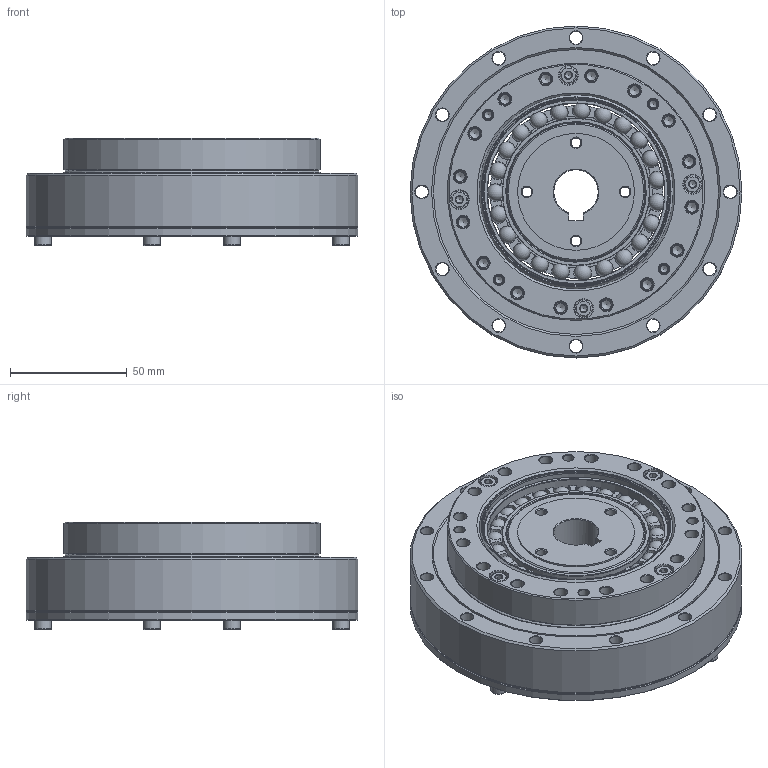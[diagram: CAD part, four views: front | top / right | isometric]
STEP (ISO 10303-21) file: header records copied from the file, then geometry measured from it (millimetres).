
FILE_DESCRIPTION(/* description */ (''),/* implementation_level */ '2;1');
FILE_NAME(/* name */ 'FHG-32-XX-U-I_孔径19.stp',/* time_stamp */ '2025-02-21T16:46:04+08:00',/* author */ (''),/* organization */ (''),/* preprocessor_version */ 'ST-DEVELOPER v16.7',/* originating_system */ 'SIEMENS PLM Software NX 12.0',/* authorisation */ '');
FILE_SCHEMA (('AUTOMOTIVE_DESIGN { 1 0 10303 214 3 1 1 1 }'));
Length unit declared in the file: millimetre
Products named in the file (15): EB598012-32KCH-46258; EB598012-32KCH-04259; EB598012-32KCH-02260; EB598012-32KCH-01261; TC-110x122x6262; GB-T70.1-2000,M4x16263; GB-T70.1-2000,M4x10264; 发生器FSG-32-XXDL直径19_stp265; O型密封圈92.6-90-0.75266; O型密封圈123.8-120-1.1267; 刚轮FHG-32268; 柔轮FHG-32269; EB598012-32KCH_stp270; 交叉轴承LHT-32271; FHG-32-XX-U-I_孔径19__stp
Assembly tree (20 placements, depth 3):
  FHG-32-XX-U-I_孔径19__stp
    柔轮FHG-32269
    刚轮FHG-32268
    交叉轴承LHT-32271
      TC-110x122x6262
    O型密封圈123.8-120-1.1267
    O型密封圈92.6-90-0.75266
    EB598012-32KCH_stp270
      EB598012-32KCH-01261
      EB598012-32KCH-02260
      EB598012-32KCH-04259
      EB598012-32KCH-46258
    发生器FSG-32-XXDL直径19_stp265
    GB-T70.1-2000,M4x10264  x4
    GB-T70.1-2000,M4x16263  x4
Bounding box: 142 x 142 x 46 mm (x, y, z)
Volume: 324978.1 mm3; surface area: 176105.3 mm2
Topology: 42 solids, 42 shells, 820 faces, 1900 edges, 1151 vertices
Faces by surface type: cone 287, plane 216, cylinder 207, torus 85, sphere 23, bspline 2
Full cylindrical faces by diameter (mm): 2.5 x2, 3.3 x16, 3.838 x8, 4.2 x20, 4.5 x16, 5.5 x40, 7 x8, 8 x4, 32 x1, 50 x1, 56.7 x1, 58.928 x2, 62 x1, 63.096 x2, 65 x1, 69 x1, 73.8 x1, 75.83 x2, 79.756 x2, 80.703 x1, 82.886 x1, 83.27 x1, 86 x1, 88 x2, 88.5 x1, 90 x2, 92.6 x2, 101 x1, 109.5 x1, 110 x3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
Entity records: 19932 total; most frequent: CARTESIAN_POINT 4919, DIRECTION 3028, ORIENTED_EDGE 2044, AXIS2_PLACEMENT_3D 1441, EDGE_LOOP 1197, FACE_BOUND 1065, EDGE_CURVE 1022, VERTEX_POINT 892
